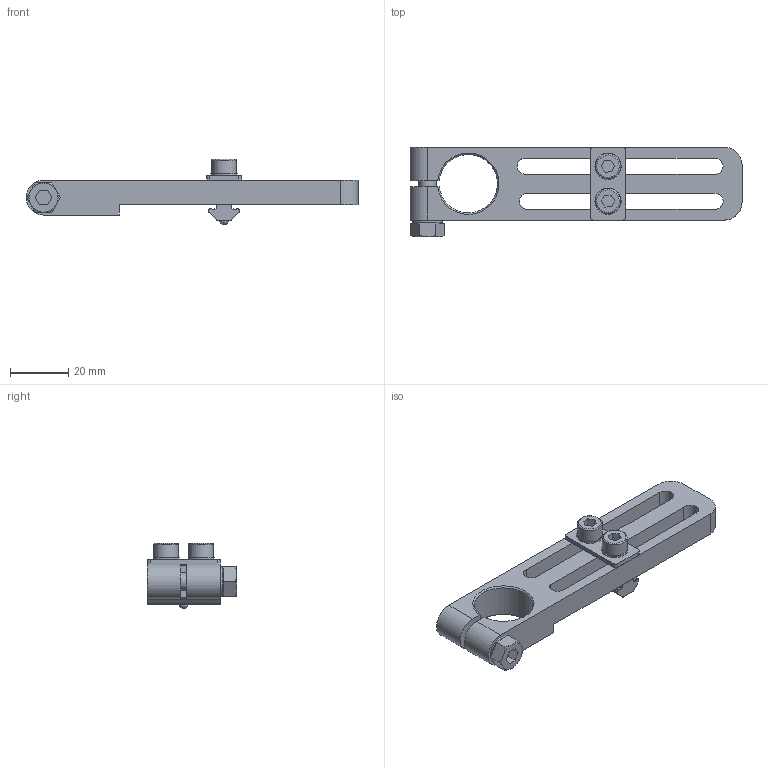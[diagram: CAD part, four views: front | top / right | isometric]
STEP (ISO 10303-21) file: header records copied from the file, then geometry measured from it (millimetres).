
FILE_DESCRIPTION(/* description */ (''),/* implementation_level */ '2;1');
FILE_NAME(/* name */ 'J:\_TEMP - INPUT - Daten Austausch\CADs\stp Dateien für homepage\GR02.013A.stp',/* time_stamp */ '2016-11-03T10:20:49+01:00',/* author */ ('DFloßmann'),/* organization */ (''),/* preprocessor_version */ 'ST-DEVELOPER v16.5',/* originating_system */ 'Autodesk Inventor 2017',/* authorisation */ '');
FILE_SCHEMA (('AUTOMOTIVE_DESIGN { 1 0 10303 214 3 1 1 }'));
Length unit declared in the file: millimetre
Products named in the file (8): GR02.013A; GR02.013-1; GR02.013-2; Schnorr S6; Schnorr S5; GR01.092A; DIN912-M5x16; I-A 6kt M6x20
Assembly tree (9 placements, depth 2):
  GR02.013A
    GR02.013-1
    GR02.013-2
    Schnorr S6
    Schnorr S5  x2
    GR01.092A
    DIN912-M5x16  x2
    I-A 6kt M6x20
Bounding box: 114 x 30.7 x 22.39 mm (x, y, z)
Volume: 18873 mm3; surface area: 13468.3 mm2
Topology: 9 solids, 9 shells, 142 faces, 343 edges, 224 vertices
Faces by surface type: plane 81, cylinder 47, cone 11, torus 2, sphere 1
Full cylindrical faces by diameter (mm): 4.134 x2, 4.917 x1, 5 x2, 5.3 x2, 5.5 x2, 6 x1, 6.4 x1, 6.5 x1, 8.5 x2, 9 x2, 10 x2
Entity records: 3823 total; most frequent: DIRECTION 653, CARTESIAN_POINT 653, ORIENTED_EDGE 568, EDGE_CURVE 284, AXIS2_PLACEMENT_3D 244, VERTEX_POINT 196, EDGE_LOOP 166, LINE 165
